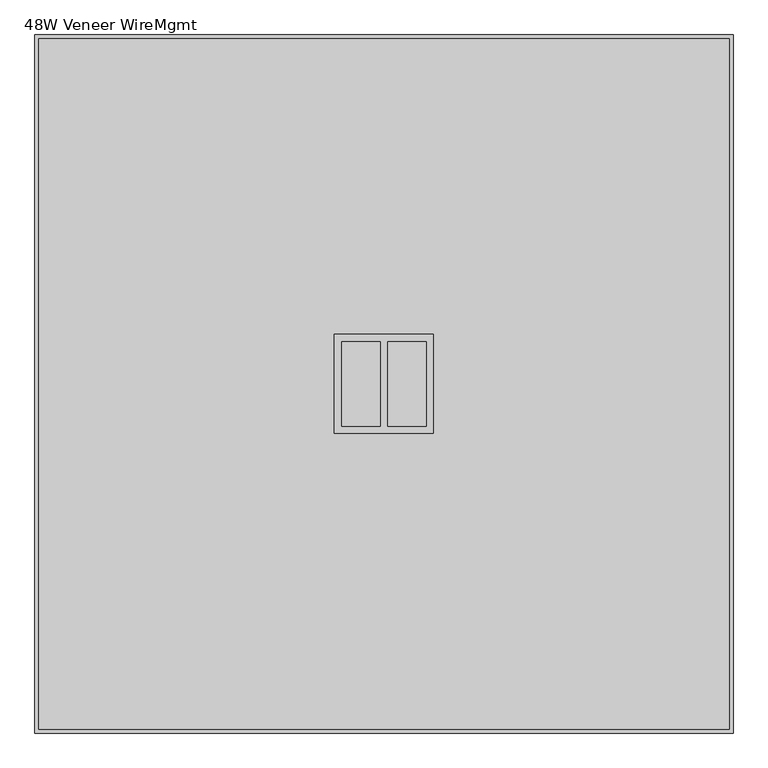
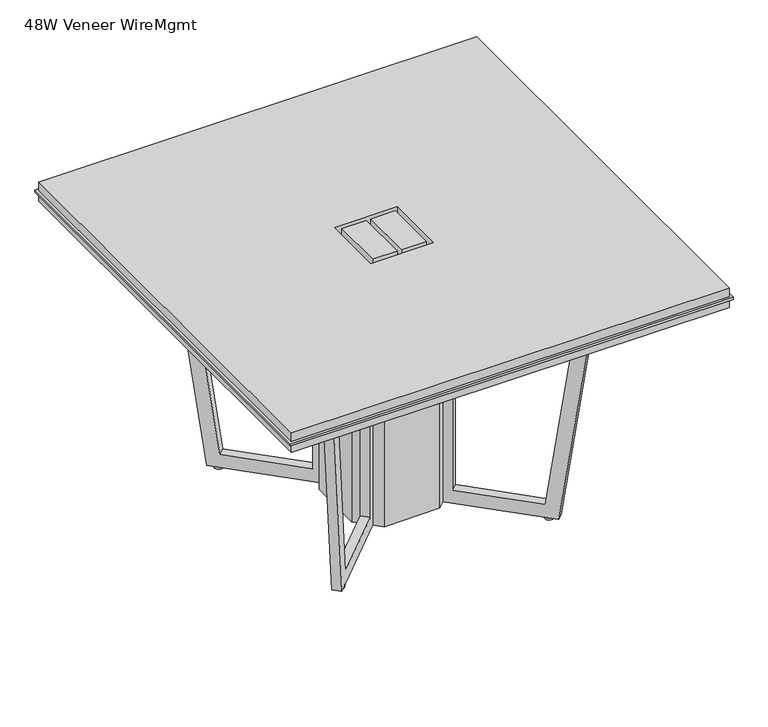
"""IFC4 building model written with IfcOpenShell, lengths in millimetres: furniture geometry, Knoll_Datesweiser_Tables_Meeting_Highline_Square : 48W Veneer WireMgmt."""

from ifc_helpers import new_model, si_unit, point, frame, frame_2d, origin, origin_with_axes, place, context, project, spatial, polyline, circle_curve, trimmed, segment, composite_curve, outline, extrude, faceted_brep, source, transform, mapped, element, save


def furniture_48w_veneer_wiremgmt_23fd9e6e(model_context):
    return source(origin(), model_context, "Body", "SolidModel", [
        extrude(outline(polyline([(609.6, 609.6), (609.6, -609.6), (-609.6, -609.6), (-609.6, 609.6), (609.6, 609.6)])), frame((0.0, 0.0, 698.5), z_axis=(0.0, 0.0, 1.0), x_axis=(1.0, 0.0, 0.0)), (0.0, 0.0, 1.0), 25.4),
        extrude(outline(polyline([(609.6, 609.6), (609.6, -609.6), (-609.6, -609.6), (-609.6, 609.6), (609.6, 609.6)]), holes=[polyline([(-87.3125, -87.3125), (87.3125, -87.3125), (87.3125, 87.3125), (-87.3125, 87.3125), (-87.3125, -87.3125)])]), frame((0.0, 0.0, 730.25), z_axis=(0.0, 0.0, 1.0), x_axis=(1.0, 0.0, 0.0)), (0.0, 0.0, 1.0), 25.4),
        extrude(outline(polyline([(6.35, -74.6125), (6.35, 74.6125), (74.6125, 74.6125), (74.6125, -74.6125), (6.35, -74.6125)])), frame((0.0, 0.0, 730.25), z_axis=(0.0, 0.0, 1.0), x_axis=(1.0, 0.0, 0.0)), (0.0, 0.0, 1.0), 25.4),
        extrude(outline(polyline([(-6.35, 74.6125), (-6.35, -74.6125), (-74.6125, -74.6125), (-74.6125, 74.6125), (-6.35, 74.6125)])), frame((0.0, 0.0, 730.25), z_axis=(0.0, 0.0, 1.0), x_axis=(1.0, 0.0, 0.0)), (0.0, 0.0, 1.0), 25.4),
        extrude(outline(polyline([(615.95, 615.95), (615.95, -615.95), (-615.95, -615.95), (-615.95, 615.95), (615.95, 615.95)]), holes=[polyline([(-87.3125, -87.3125), (87.3125, -87.3125), (87.3125, 87.3125), (-87.3125, 87.3125), (-87.3125, -87.3125)])]), frame((0.0, 0.0, 723.9), z_axis=(0.0, 0.0, 1.0), x_axis=(1.0, 0.0, 0.0)), (0.0, 0.0, 1.0), 6.35),
        extrude(outline(polyline([(6.35, -74.6125), (6.35, 74.6125), (74.6125, 74.6125), (74.6125, -74.6125), (6.35, -74.6125)])), frame((0.0, 0.0, 723.9), z_axis=(0.0, 0.0, 1.0), x_axis=(1.0, 0.0, 0.0)), (0.0, 0.0, 1.0), 6.35),
        extrude(outline(polyline([(-6.35, 74.6125), (-6.35, -74.6125), (-74.6125, -74.6125), (-74.6125, 74.6125), (-6.35, 74.6125)])), frame((0.0, 0.0, 723.9), z_axis=(0.0, 0.0, 1.0), x_axis=(1.0, 0.0, 0.0)), (0.0, 0.0, 1.0), 6.35),
        extrude(outline(composite_curve([segment(trimmed(circle_curve(frame_2d((-291.4942533, -291.4942533)), 12.7), [point((-278.7942533, -291.4942533))], [point((-304.1942533, -291.4942533))], False, "CARTESIAN"), True, "CONTINUOUS"), segment(trimmed(circle_curve(frame_2d((-291.4942533, -291.4942533)), 12.7), [point((-304.1942533, -291.4942533))], [point((-278.7942533, -291.4942533))], False, "CARTESIAN"), True, "CONTINUOUS")], self_intersect=False)), origin_with_axes(), (0.0, 0.0, 1.0), 5.9867797),
        extrude(outline(composite_curve([segment(trimmed(circle_curve(frame_2d((-291.4942533, 291.4942533)), 12.7), [point((-278.7942533, 291.4942533))], [point((-304.1942533, 291.4942533))], False, "CARTESIAN"), True, "CONTINUOUS"), segment(trimmed(circle_curve(frame_2d((-291.4942533, 291.4942533)), 12.7), [point((-304.1942533, 291.4942533))], [point((-278.7942533, 291.4942533))], False, "CARTESIAN"), True, "CONTINUOUS")], self_intersect=False)), origin_with_axes(), (0.0, 0.0, 1.0), 5.9867797),
        extrude(outline(composite_curve([segment(trimmed(circle_curve(frame_2d((291.4942533, -291.4942533)), 12.7), [point((304.1942533, -291.4942533))], [point((278.7942533, -291.4942533))], False, "CARTESIAN"), True, "CONTINUOUS"), segment(trimmed(circle_curve(frame_2d((291.4942533, -291.4942533)), 12.7), [point((278.7942533, -291.4942533))], [point((304.1942533, -291.4942533))], False, "CARTESIAN"), True, "CONTINUOUS")], self_intersect=False)), origin_with_axes(), (0.0, 0.0, 1.0), 5.9867797),
        extrude(outline(composite_curve([segment(trimmed(circle_curve(frame_2d((291.4942533, 291.4942533)), 12.7), [point((304.1942533, 291.4942533))], [point((278.7942533, 291.4942533))], False, "CARTESIAN"), True, "CONTINUOUS"), segment(trimmed(circle_curve(frame_2d((291.4942533, 291.4942533)), 12.7), [point((278.7942533, 291.4942533))], [point((304.1942533, 291.4942533))], False, "CARTESIAN"), True, "CONTINUOUS")], self_intersect=False)), origin_with_axes(), (0.0, 0.0, 1.0), 5.9867797),
        extrude(outline(polyline([(687.3294598, 0.0), (687.7189281, -302.8812361), (-4.9389753, -400.2213524), (-4.9386158, -361.7469045), (649.4754872, -269.7812402), (649.4776515, -38.0996402), (-4.9355924, -38.0935268), (-4.9352365, 0.0), (687.3294598, 0.0)])), frame((87.5574969, -105.5180091, 693.5647877), z_axis=(0.7071067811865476, 0.7071067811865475, 0.0), x_axis=(-6.605612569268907e-06, 6.605612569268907e-06, -0.9999999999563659)), (0.0, 0.0, 1.0), 25.4),
        extrude(outline(polyline([(687.3320105, 273.0371574), (-4.9326857, 273.0500913), (-4.9323299, 311.1436182), (649.480914, 311.1375048), (649.4830783, 542.8191048), (-4.9293064, 634.7969958), (-4.928947, 673.2714438), (687.7271376, 575.9183862), (687.3320105, 273.0371574)])), frame((87.5574969, -105.5180091, 693.5647877), z_axis=(0.7071067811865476, 0.7071067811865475, 0.0), x_axis=(-6.605612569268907e-06, 6.605612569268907e-06, -0.9999999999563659)), (0.0, 0.0, 1.0), 25.4),
        faceted_brep([(-134.8689207, 77.8517251, 679.2551774), (-134.8689207, -77.8517528, 679.2551774), (-115.3405882, -97.3800759, 679.2551774), (-105.5179146, -87.5574023, 679.2551774), (-87.5574023, -105.5179146, 679.2551774), (-97.3800716, -115.3405838, 679.2551774), (-77.8517251, -134.8689207, 679.2551774), (77.8517251, -134.8689207, 679.2551774), (134.8689207, -77.8517528, 679.2551774), (134.8689207, 77.8517251, 679.2551774), (115.3405838, 97.3800716, 679.2551774), (105.5179146, 87.5574023, 679.2551774), (87.5574023, 105.5179146, 679.2551774), (97.3800759, 115.3405882, 679.2551774), (77.8517528, 134.8689207, 679.2551774), (-77.8517528, 134.8689207, 679.2551774), (-134.8689207, 77.8517251, 5.8810183), (-77.8517528, 134.8689207, 5.8810183), (77.8517528, 134.8689207, 5.8810183), (134.8689207, 77.8517251, 5.8810183), (134.8689207, -77.8517528, 5.8810183), (77.8517251, -134.8689207, 5.8810183), (-77.8517251, -134.8689207, 5.8810183), (-134.8689207, -77.8517528, 5.8810183), (-97.3800716, -115.3405838, 6.2173274), (-115.3405882, -97.3800759, 6.2173274), (97.3800759, 115.3405882, 6.2173274), (115.3405838, 97.3800716, 6.2173274), (87.5575295, 105.5180417, 698.5000242), (114.4937206, 132.4542329, 698.5000242), (114.4937206, 132.4542329, 44.0867803), (278.3173511, 296.2778633, 44.0867803), (343.3512187, 361.311731, 698.5000242), (370.5567618, 388.517274, 698.5000242), (301.72233, 319.6828422, 5.8430302), (-319.6828422, -301.72233, 5.8430302), (-388.517274, -370.5567618, 698.5000242), (-361.311731, -343.3512187, 698.5000242), (-296.2778633, -278.3173511, 44.0867803), (-132.4542329, -114.4937206, 44.0867803), (-132.4542329, -114.4937206, 698.5000242), (-105.5180417, -87.5575295, 698.5000242), (319.6828422, 301.72233, 5.8430302), (388.517274, 370.5567618, 698.5000242), (361.311731, 343.3512187, 698.5000242), (296.2778633, 278.3173511, 44.0867803), (132.4542329, 114.4937206, 44.0867803), (132.4542329, 114.4937206, 698.5000242), (105.5180417, 87.5575295, 698.5000242), (-87.5575295, -105.5180417, 698.5000242), (-114.4937206, -132.4542329, 698.5000242), (-114.4937206, -132.4542329, 44.0867803), (-278.3173511, -296.2778633, 44.0867803), (-343.3512187, -361.311731, 698.5000242), (-370.5567618, -388.517274, 698.5000242), (-301.72233, -319.6828422, 5.8430302)], [[[0, 1, 2, 3, 4, 5, 6, 7, 8, 9, 10, 11, 12, 13, 14, 15]], [[16, 17, 18, 19, 20, 21, 22, 23]], [[1, 0, 16, 23]], [[23, 22, 6, 5, 24, 25, 2, 1]], [[7, 6, 22, 21]], [[8, 7, 21, 20]], [[9, 8, 20, 19]], [[19, 18, 14, 13, 26, 27, 10, 9]], [[15, 14, 18, 17]], [[0, 15, 17, 16]], [[28, 29, 30, 31, 32, 33, 34, 26, 13, 12]], [[35, 36, 37, 38, 39, 40, 41, 3, 2, 25]], [[42, 43, 44, 45, 46, 47, 48, 11, 10, 27]], [[49, 50, 51, 52, 53, 54, 55, 24, 5, 4]], [[31, 30, 46, 45]], [[32, 31, 45, 44]], [[33, 32, 44, 43]], [[34, 33, 43, 42]], [[34, 42, 27, 26]], [[48, 28, 12, 11]], [[29, 28, 48, 47]], [[30, 29, 47, 46]], [[55, 35, 25, 24]], [[36, 35, 55, 54]], [[37, 36, 54, 53]], [[38, 37, 53, 52]], [[39, 38, 52, 51]], [[40, 39, 51, 50]], [[41, 40, 50, 49]], [[41, 49, 4, 3]]]),
    ])


if __name__ == "__main__":
    model = new_model("IFC4")
    model_context = context("Model", 3, world=origin())
    ifc_project = project(units=[si_unit("LENGTHUNIT", "METRE", prefix="MILLI")], contexts=[model_context])
    site = spatial("IfcSite", under=ifc_project)
    building = spatial("IfcBuilding", under=site)
    placement = place(None, origin())
    furniture_48w_veneer_wiremgmt_shape = furniture_48w_veneer_wiremgmt_23fd9e6e(model_context)
    element("IfcFurniture", 1, ObjectType="Knoll_Datesweiser_Tables_Meeting_Highline_Square : 48W Veneer WireMgmt", at=placement, inside=building, context=model_context, shape_type="MappedRepresentation", body=[
        mapped(furniture_48w_veneer_wiremgmt_shape, transform((0.0, 0.0, 0.0), x_axis=(1.0, 0.0, 0.0), y_axis=(0.0, 1.0, 0.0), z_axis=(0.0, 0.0, 1.0))),
    ])
    save(model, "model.ifc")
